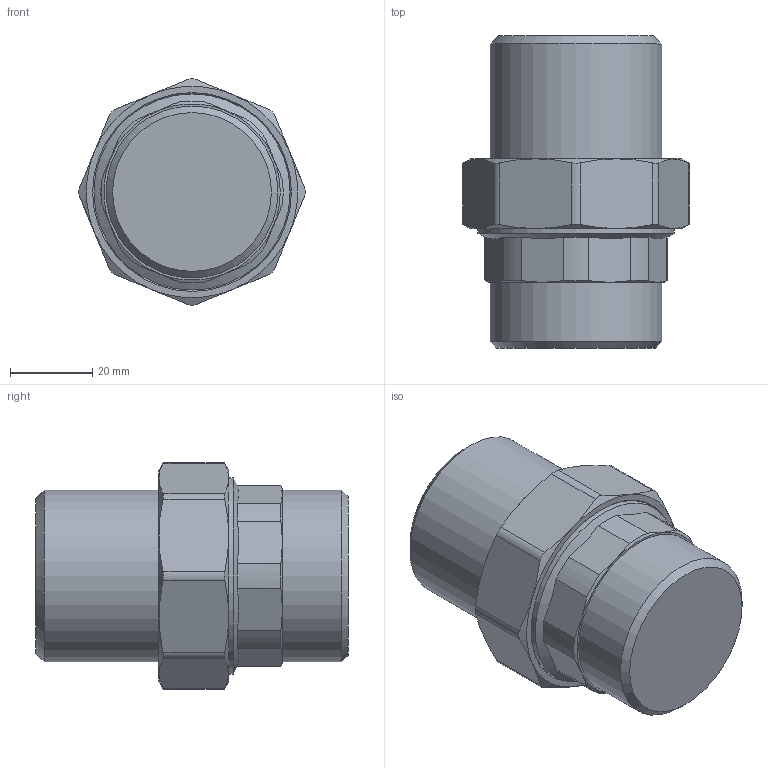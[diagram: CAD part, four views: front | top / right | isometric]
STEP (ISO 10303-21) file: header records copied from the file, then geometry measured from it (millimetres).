
FILE_DESCRIPTION(('STEP AP203'), '1');
FILE_NAME('覆.302612.028.000 捘 - VTr.728.N.0007', '2024-07-19T07:26:34', ('Boss'), (''), 'C3D Converter', 'C3D Toolkit', '');
FILE_SCHEMA(('CONFIG_CONTROL_DESIGN'));
Length unit declared in the file: millimetre
Products named in the file (1): ВР.302612.028.000 СБ
Bounding box: 55.25 x 76.11 x 55.25 mm (x, y, z)
Volume: 120444.5 mm3; surface area: 15586.2 mm2
Topology: 1 solids, 1 shells, 62 faces, 166 edges, 102 vertices
Faces by surface type: plane 22, cone 20, cylinder 20
Full cylindrical faces by diameter (mm): 41.91 x2, 42.1 x1, 47.803 x1
Entity records: 3675 total; most frequent: CARTESIAN_POINT 2357, ORIENTED_EDGE 272, DIRECTION 242, EDGE_CURVE 136, AXIS2_PLACEMENT_3D 105, VERTEX_POINT 92, EDGE_LOOP 74, ADVANCED_FACE 60
